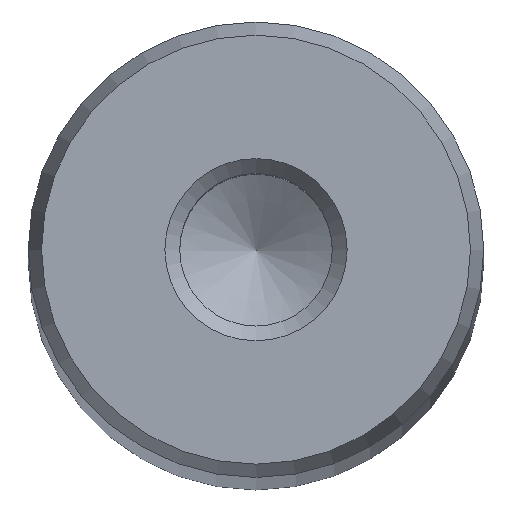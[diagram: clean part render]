
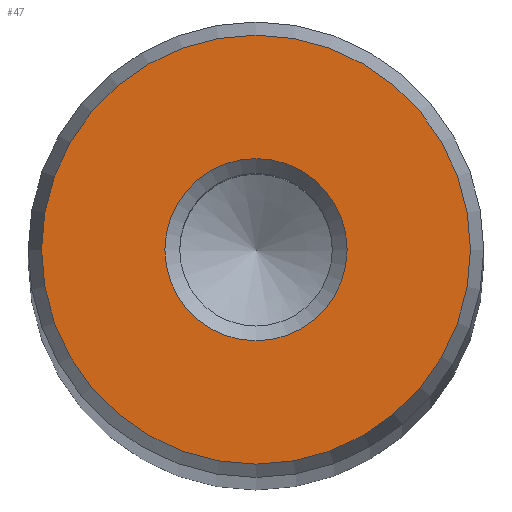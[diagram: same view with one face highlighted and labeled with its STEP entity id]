
A CAD part, top view. The second image highlights one B-rep face of the part: STEP entity #47.
In plain terms, the highlighted planar face has unit normal (0, 0, 1).
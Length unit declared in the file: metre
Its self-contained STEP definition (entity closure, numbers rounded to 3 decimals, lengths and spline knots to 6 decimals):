
#47 = ADVANCED_FACE( '', ( #100, #101 ), #102, .T. );
#100 = FACE_OUTER_BOUND( '', #159, .T. );
#101 = FACE_BOUND( '', #160, .T. );
#102 = PLANE( '', #161 );
#159 = EDGE_LOOP( '', ( #222 ) );
#160 = EDGE_LOOP( '', ( #223 ) );
#161 = AXIS2_PLACEMENT_3D( '', #224, #225, #226 );
#222 = ORIENTED_EDGE( '', *, *, #284, .T. );
#223 = ORIENTED_EDGE( '', *, *, #279, .T. );
#224 = CARTESIAN_POINT( '', ( 0., 0., 0.396 ) );
#225 = DIRECTION( '', ( 0., 0., 1. ) );
#226 = DIRECTION( '', ( 1., 0., 0. ) );
#279 = EDGE_CURVE( '', #312, #312, #313, .T. );
#284 = EDGE_CURVE( '', #320, #320, #321, .T. );
#312 = VERTEX_POINT( '', #349 );
#313 = CIRCLE( '', #350, 0.005 );
#320 = VERTEX_POINT( '', #357 );
#321 = CIRCLE( '', #358, 0.011772 );
#349 = CARTESIAN_POINT( '', ( 0.005, 0., 0.396 ) );
#350 = AXIS2_PLACEMENT_3D( '', #388, #389, #390 );
#357 = CARTESIAN_POINT( '', ( 0.011772, 0., 0.396 ) );
#358 = AXIS2_PLACEMENT_3D( '', #397, #398, #399 );
#388 = CARTESIAN_POINT( '', ( 0., 0., 0.396 ) );
#389 = DIRECTION( '', ( 0., 0., -1. ) );
#390 = DIRECTION( '', ( 1., 0., 0. ) );
#397 = CARTESIAN_POINT( '', ( 0., 0., 0.396 ) );
#398 = DIRECTION( '', ( 0., 0., 1. ) );
#399 = DIRECTION( '', ( 1., 0., 0. ) );
